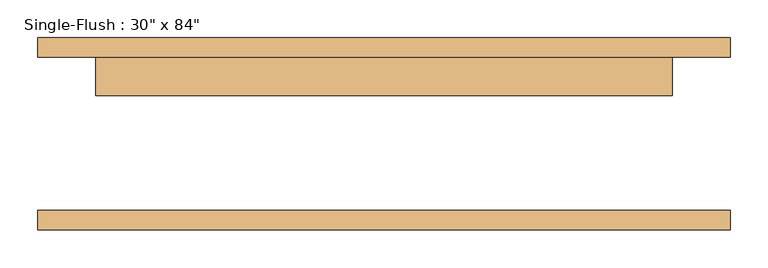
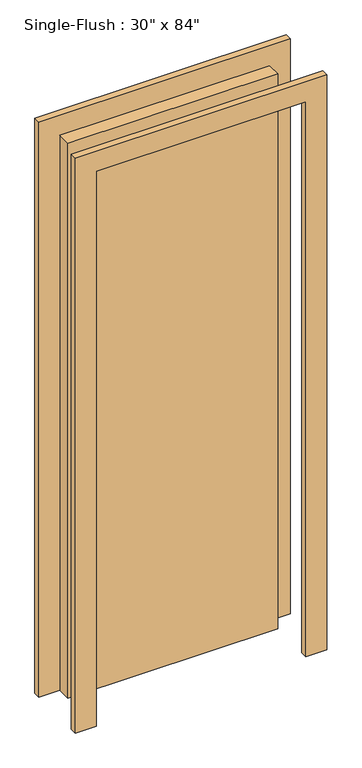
"""IFC4 building model written with IfcOpenShell, lengths in millimetres: door geometry."""

from ifc_helpers import new_model, si_unit, frame, origin, origin_with_axes, place, context, project, spatial, polyline, outline, extrude, source, transform, mapped, element, save


def door_b6acaa4e(model_context):
    return source(origin(), model_context, "Body", "SweptSolid", [
        extrude(outline(polyline([(2209.8, -457.2), (0.0, -457.2), (0.0, -381.0), (2133.6, -381.0), (2133.6, 381.0), (0.0, 381.0), (0.0, 457.2), (2209.8, 457.2), (2209.8, -457.2)])), frame((0.0, 101.6, 0.0), z_axis=(0.0, 1.0, 0.0), x_axis=(0.0, 0.0, 1.0)), (0.0, 0.0, 1.0), 25.4),
        extrude(outline(polyline([(2209.8, 457.2), (2209.8, -457.2), (0.0, -457.2), (0.0, -381.0), (2133.6, -381.0), (2133.6, 381.0), (0.0, 381.0), (0.0, 457.2), (2209.8, 457.2)])), frame((0.0, -127.0, 0.0), z_axis=(0.0, 1.0, 0.0), x_axis=(0.0, 0.0, 1.0)), (0.0, 0.0, 1.0), 25.4),
        extrude(outline(polyline([(381.0, 50.8), (-381.0, 50.8), (-381.0, 101.6), (381.0, 101.6), (381.0, 50.8)])), origin_with_axes(), (0.0, 0.0, 1.0), 2133.6),
    ])


if __name__ == "__main__":
    model = new_model("IFC4")
    model_context = context("Model", 3, world=origin())
    ifc_project = project(units=[si_unit("LENGTHUNIT", "METRE", prefix="MILLI")], contexts=[model_context])
    site = spatial("IfcSite", under=ifc_project)
    building = spatial("IfcBuilding", under=site)
    placement = place(None, origin())
    door_shape = door_b6acaa4e(model_context)
    element("IfcDoor", 1, ObjectType="Single-Flush : 30\" x 84\"", at=placement, inside=building, context=model_context, shape_type="MappedRepresentation", body=[
        mapped(door_shape, transform((0.0, 0.0, 0.0), x_axis=(1.0, 0.0, 0.0), y_axis=(0.0, 1.0, 0.0), z_axis=(0.0, 0.0, 1.0))),
    ])
    save(model, "model.ifc")
